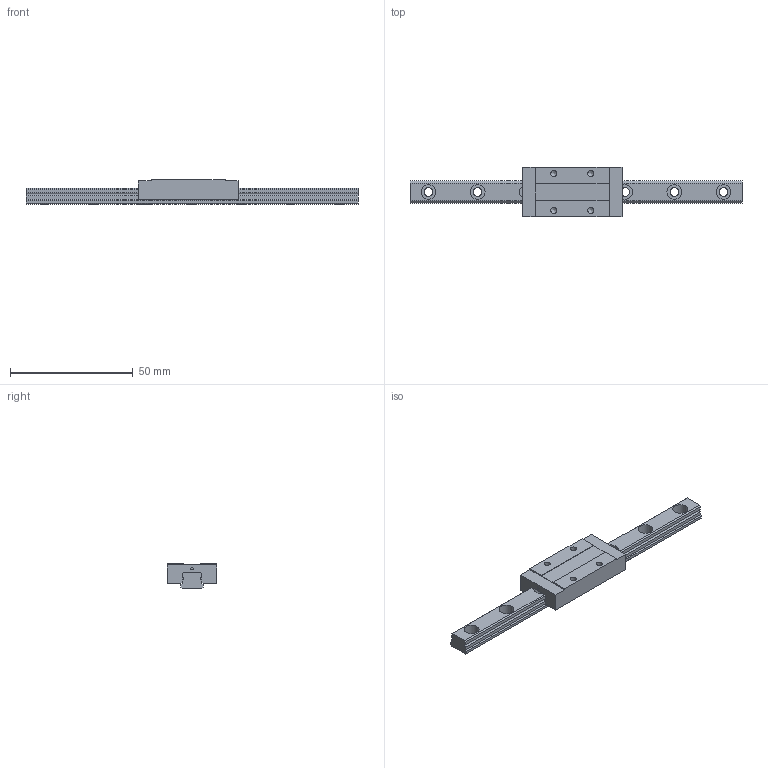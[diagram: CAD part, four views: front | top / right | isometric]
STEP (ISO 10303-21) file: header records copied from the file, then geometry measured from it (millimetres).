
FILE_DESCRIPTION((''),'2;1');
FILE_NAME('D:\製品 (図面)\カタログ用3D\リニアガイド関連\STEP形式\LGM-L\LGM9L.stp','2010-06-02T15:56:17',('Tsuchiya'),(''),'Autodesk Inventor 10','Autodesk Inventor 10','');
FILE_SCHEMA(('AUTOMOTIVE_DESIGN { 1 0 10303 214 1 1 1 1 }'));
Length unit declared in the file: millimetre
Products named in the file (3): LGM9L; LGM9L1; LGM9L2
Assembly tree (2 placements, depth 2):
  LGM9L
    LGM9L1
    LGM9L2
Bounding box: 135 x 20 x 10 mm (x, y, z)
Volume: 10920.5 mm3; surface area: 7883.8 mm2
Topology: 2 solids, 2 shells, 75 faces, 184 edges, 122 vertices
Faces by surface type: plane 39, bspline 27, cylinder 7, cone 2
Full cylindrical faces by diameter (mm): 1 x1, 2.459 x2
Entity records: 2387 total; most frequent: CARTESIAN_POINT 697, DIRECTION 308, ORIENTED_EDGE 308, EDGE_CURVE 154, EDGE_LOOP 122, VERTEX_POINT 116, VECTOR 106, LINE 106
